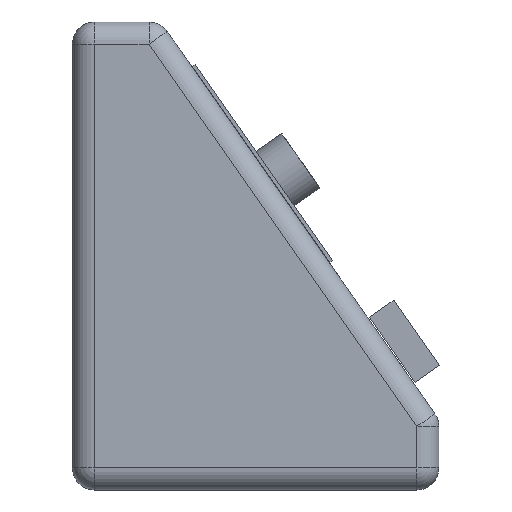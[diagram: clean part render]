
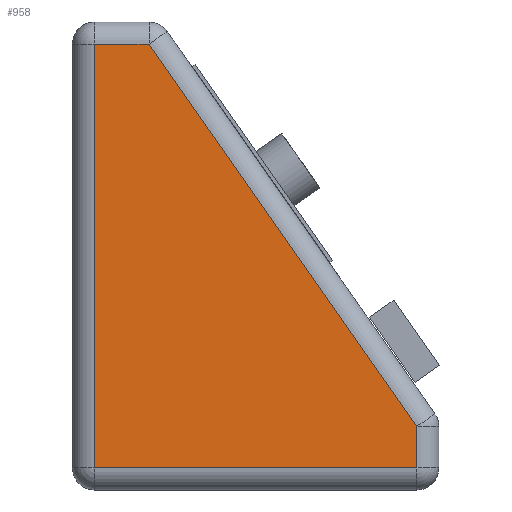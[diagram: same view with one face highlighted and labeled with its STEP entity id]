
A CAD part, left-side view. The second image highlights one B-rep face of the part: STEP entity #958.
In plain terms, the highlighted planar face has unit normal (-1, 0, 0).
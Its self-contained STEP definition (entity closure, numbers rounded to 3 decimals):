
#188 = CYLINDRICAL_SURFACE('',#189,5.);
#189 = AXIS2_PLACEMENT_3D('',#190,#191,#192);
#190 = CARTESIAN_POINT('',(5.,0.,5.));
#191 = DIRECTION('',(0.,1.,0.));
#192 = DIRECTION('',(-0.,0.,-1.));
#398 = VERTEX_POINT('',#399);
#399 = CARTESIAN_POINT('',(0.,5.,5.));
#419 = EDGE_CURVE('',#398,#420,#422,.T.);
#420 = VERTEX_POINT('',#421);
#421 = CARTESIAN_POINT('',(0.,78.093,5.));
#422 = SURFACE_CURVE('',#423,(#427,#434),.PCURVE_S1.);
#423 = LINE('',#424,#425);
#424 = CARTESIAN_POINT('',(0.,0.,5.));
#425 = VECTOR('',#426,1.);
#426 = DIRECTION('',(0.,1.,0.));
#427 = PCURVE('',#188,#428);
#428 = DEFINITIONAL_REPRESENTATION('',(#429),#433);
#429 = LINE('',#430,#431);
#430 = CARTESIAN_POINT('',(1.571,0.));
#431 = VECTOR('',#432,1.);
#432 = DIRECTION('',(0.,1.));
#433 = ( GEOMETRIC_REPRESENTATION_CONTEXT(2) 
PARAMETRIC_REPRESENTATION_CONTEXT() REPRESENTATION_CONTEXT('2D SPACE',''
  ) );
#434 = PCURVE('',#435,#440);
#435 = PLANE('',#436);
#436 = AXIS2_PLACEMENT_3D('',#437,#438,#439);
#437 = CARTESIAN_POINT('',(0.,51.316,43.542));
#438 = DIRECTION('',(1.,0.,0.));
#439 = DIRECTION('',(-0.,0.,1.));
#440 = DEFINITIONAL_REPRESENTATION('',(#441),#445);
#441 = LINE('',#442,#443);
#442 = CARTESIAN_POINT('',(-38.542,51.316));
#443 = VECTOR('',#444,1.);
#444 = DIRECTION('',(0.,-1.));
#445 = ( GEOMETRIC_REPRESENTATION_CONTEXT(2) 
PARAMETRIC_REPRESENTATION_CONTEXT() REPRESENTATION_CONTEXT('2D SPACE',''
  ) );
#841 = CYLINDRICAL_SURFACE('',#842,5.);
#842 = AXIS2_PLACEMENT_3D('',#843,#844,#845);
#843 = CARTESIAN_POINT('',(5.,5.,16.));
#844 = DIRECTION('',(0.,0.,-1.));
#845 = DIRECTION('',(0.,-1.,-0.));
#958 = ADVANCED_FACE('',(#959),#435,.F.);
#959 = FACE_BOUND('',#960,.F.);
#960 = EDGE_LOOP('',(#961,#962,#990,#1018,#1046));
#961 = ORIENTED_EDGE('',*,*,#419,.T.);
#962 = ORIENTED_EDGE('',*,*,#963,.T.);
#963 = EDGE_CURVE('',#420,#964,#966,.T.);
#964 = VERTEX_POINT('',#965);
#965 = CARTESIAN_POINT('',(0.,78.093,101.107));
#966 = SURFACE_CURVE('',#967,(#971,#978),.PCURVE_S1.);
#967 = LINE('',#968,#969);
#968 = CARTESIAN_POINT('',(0.,78.093,0.));
#969 = VECTOR('',#970,1.);
#970 = DIRECTION('',(0.,0.,1.));
#971 = PCURVE('',#435,#972);
#972 = DEFINITIONAL_REPRESENTATION('',(#973),#977);
#973 = LINE('',#974,#975);
#974 = CARTESIAN_POINT('',(-43.542,-26.778));
#975 = VECTOR('',#976,1.);
#976 = DIRECTION('',(1.,0.));
#977 = ( GEOMETRIC_REPRESENTATION_CONTEXT(2) 
PARAMETRIC_REPRESENTATION_CONTEXT() REPRESENTATION_CONTEXT('2D SPACE',''
  ) );
#978 = PCURVE('',#979,#984);
#979 = CYLINDRICAL_SURFACE('',#980,5.);
#980 = AXIS2_PLACEMENT_3D('',#981,#982,#983);
#981 = CARTESIAN_POINT('',(5.,78.093,0.));
#982 = DIRECTION('',(0.,0.,1.));
#983 = DIRECTION('',(-0.,1.,0.));
#984 = DEFINITIONAL_REPRESENTATION('',(#985),#989);
#985 = LINE('',#986,#987);
#986 = CARTESIAN_POINT('',(1.571,0.));
#987 = VECTOR('',#988,1.);
#988 = DIRECTION('',(0.,1.));
#989 = ( GEOMETRIC_REPRESENTATION_CONTEXT(2) 
PARAMETRIC_REPRESENTATION_CONTEXT() REPRESENTATION_CONTEXT('2D SPACE',''
  ) );
#990 = ORIENTED_EDGE('',*,*,#991,.T.);
#991 = EDGE_CURVE('',#964,#992,#994,.T.);
#992 = VERTEX_POINT('',#993);
#993 = CARTESIAN_POINT('',(0.,65.696,101.107));
#994 = SURFACE_CURVE('',#995,(#999,#1006),.PCURVE_S1.);
#995 = LINE('',#996,#997);
#996 = CARTESIAN_POINT('',(0.,83.093,
    101.107));
#997 = VECTOR('',#998,1.);
#998 = DIRECTION('',(0.,-1.,0.));
#999 = PCURVE('',#435,#1000);
#1000 = DEFINITIONAL_REPRESENTATION('',(#1001),#1005);
#1001 = LINE('',#1002,#1003);
#1002 = CARTESIAN_POINT('',(57.565,-31.778));
#1003 = VECTOR('',#1004,1.);
#1004 = DIRECTION('',(0.,1.));
#1005 = ( GEOMETRIC_REPRESENTATION_CONTEXT(2) 
PARAMETRIC_REPRESENTATION_CONTEXT() REPRESENTATION_CONTEXT('2D SPACE',''
  ) );
#1006 = PCURVE('',#1007,#1012);
#1007 = CYLINDRICAL_SURFACE('',#1008,5.);
#1008 = AXIS2_PLACEMENT_3D('',#1009,#1010,#1011);
#1009 = CARTESIAN_POINT('',(5.,83.093,101.107));
#1010 = DIRECTION('',(0.,-1.,0.));
#1011 = DIRECTION('',(-0.,0.,1.));
#1012 = DEFINITIONAL_REPRESENTATION('',(#1013),#1017);
#1013 = LINE('',#1014,#1015);
#1014 = CARTESIAN_POINT('',(1.571,0.));
#1015 = VECTOR('',#1016,1.);
#1016 = DIRECTION('',(0.,1.));
#1017 = ( GEOMETRIC_REPRESENTATION_CONTEXT(2) 
PARAMETRIC_REPRESENTATION_CONTEXT() REPRESENTATION_CONTEXT('2D SPACE',''
  ) );
#1018 = ORIENTED_EDGE('',*,*,#1019,.T.);
#1019 = EDGE_CURVE('',#992,#1020,#1022,.T.);
#1020 = VERTEX_POINT('',#1021);
#1021 = CARTESIAN_POINT('',(0.,5.,14.424));
#1022 = SURFACE_CURVE('',#1023,(#1027,#1034),.PCURVE_S1.);
#1023 = LINE('',#1024,#1025);
#1024 = CARTESIAN_POINT('',(0.,67.189,
    103.239));
#1025 = VECTOR('',#1026,1.);
#1026 = DIRECTION('',(0.,-0.574,-0.819));
#1027 = PCURVE('',#435,#1028);
#1028 = DEFINITIONAL_REPRESENTATION('',(#1029),#1033);
#1029 = LINE('',#1030,#1031);
#1030 = CARTESIAN_POINT('',(59.697,-15.873));
#1031 = VECTOR('',#1032,1.);
#1032 = DIRECTION('',(-0.819,0.574));
#1033 = ( GEOMETRIC_REPRESENTATION_CONTEXT(2) 
PARAMETRIC_REPRESENTATION_CONTEXT() REPRESENTATION_CONTEXT('2D SPACE',''
  ) );
#1034 = PCURVE('',#1035,#1040);
#1035 = CYLINDRICAL_SURFACE('',#1036,5.);
#1036 = AXIS2_PLACEMENT_3D('',#1037,#1038,#1039);
#1037 = CARTESIAN_POINT('',(5.,67.189,103.239));
#1038 = DIRECTION('',(0.,-0.574,-0.819));
#1039 = DIRECTION('',(0.,-0.819,0.574));
#1040 = DEFINITIONAL_REPRESENTATION('',(#1041),#1045);
#1041 = LINE('',#1042,#1043);
#1042 = CARTESIAN_POINT('',(1.571,0.));
#1043 = VECTOR('',#1044,1.);
#1044 = DIRECTION('',(0.,1.));
#1045 = ( GEOMETRIC_REPRESENTATION_CONTEXT(2) 
PARAMETRIC_REPRESENTATION_CONTEXT() REPRESENTATION_CONTEXT('2D SPACE',''
  ) );
#1046 = ORIENTED_EDGE('',*,*,#1047,.T.);
#1047 = EDGE_CURVE('',#1020,#398,#1048,.T.);
#1048 = SURFACE_CURVE('',#1049,(#1053,#1060),.PCURVE_S1.);
#1049 = LINE('',#1050,#1051);
#1050 = CARTESIAN_POINT('',(0.,5.,16.));
#1051 = VECTOR('',#1052,1.);
#1052 = DIRECTION('',(0.,0.,-1.));
#1053 = PCURVE('',#435,#1054);
#1054 = DEFINITIONAL_REPRESENTATION('',(#1055),#1059);
#1055 = LINE('',#1056,#1057);
#1056 = CARTESIAN_POINT('',(-27.542,46.316));
#1057 = VECTOR('',#1058,1.);
#1058 = DIRECTION('',(-1.,0.));
#1059 = ( GEOMETRIC_REPRESENTATION_CONTEXT(2) 
PARAMETRIC_REPRESENTATION_CONTEXT() REPRESENTATION_CONTEXT('2D SPACE',''
  ) );
#1060 = PCURVE('',#841,#1061);
#1061 = DEFINITIONAL_REPRESENTATION('',(#1062),#1066);
#1062 = LINE('',#1063,#1064);
#1063 = CARTESIAN_POINT('',(1.571,0.));
#1064 = VECTOR('',#1065,1.);
#1065 = DIRECTION('',(0.,1.));
#1066 = ( GEOMETRIC_REPRESENTATION_CONTEXT(2) 
PARAMETRIC_REPRESENTATION_CONTEXT() REPRESENTATION_CONTEXT('2D SPACE',''
  ) );
